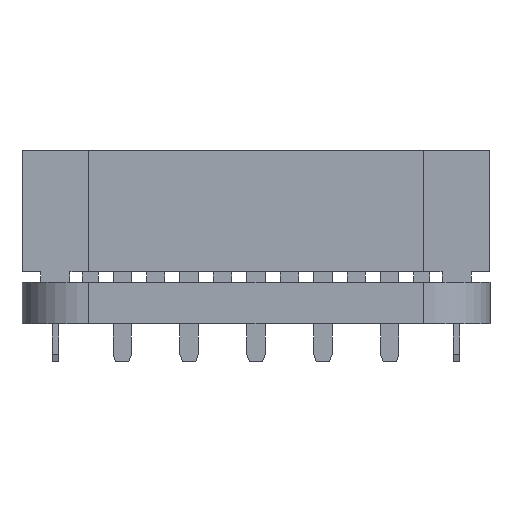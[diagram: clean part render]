
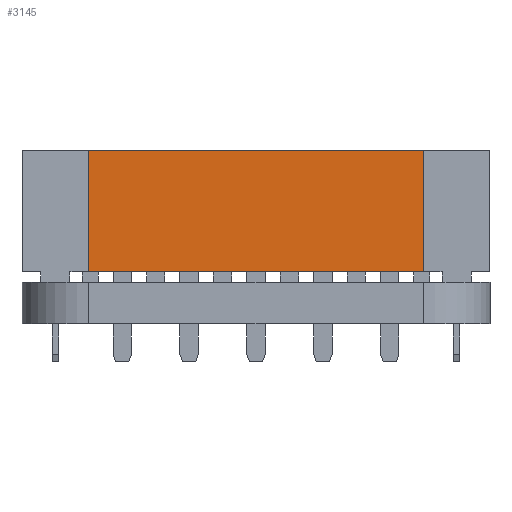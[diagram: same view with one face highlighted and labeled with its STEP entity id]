
A CAD part, front view. The second image highlights one B-rep face of the part: STEP entity #3145.
In plain terms, the highlighted planar face has unit normal (0, -1, 0) as drawn and (0, 0, -1) by its records, which use the part's own axes.
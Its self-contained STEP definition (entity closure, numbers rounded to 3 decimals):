
#51 = CARTESIAN_POINT ( 'NONE',  ( 6.6, 23.442, -1.27 ) ) ;
#330 = ORIENTED_EDGE ( 'NONE', *, *, #6319, .F. ) ;
#486 = VECTOR ( 'NONE', #6000, 1000. ) ;
#1092 = VERTEX_POINT ( 'NONE', #2343 ) ;
#1157 = AXIS2_PLACEMENT_3D ( 'NONE', #51, #3375, #9232 ) ;
#1484 = ORIENTED_EDGE ( 'NONE', *, *, #4464, .T. ) ;
#1612 = CARTESIAN_POINT ( 'NONE',  ( 6.6, 5., -1.27 ) ) ;
#1630 = PLANE ( 'NONE',  #1157 ) ;
#1804 = CARTESIAN_POINT ( 'NONE',  ( -6.6, 23.442, -1.27 ) ) ;
#1968 = VERTEX_POINT ( 'NONE', #10307 ) ;
#2122 = VECTOR ( 'NONE', #5242, 1000. ) ;
#2343 = CARTESIAN_POINT ( 'NONE',  ( -6.6, 5., -1.27 ) ) ;
#2490 = EDGE_CURVE ( 'NONE', #1092, #5947, #5295, .T. ) ;
#2673 = CARTESIAN_POINT ( 'NONE',  ( -6.6, 0.4, -1.27 ) ) ;
#3047 = CARTESIAN_POINT ( 'NONE',  ( 6.6, 0.4, -1.27 ) ) ;
#3145 = ADVANCED_FACE ( 'NONE', ( #8460 ), #1630, .F. ) ;
#3242 = ORIENTED_EDGE ( 'NONE', *, *, #2490, .F. ) ;
#3323 = CARTESIAN_POINT ( 'NONE',  ( 6.6, 5., -1.27 ) ) ;
#3375 = DIRECTION ( 'NONE',  ( 0., 0., 1. ) ) ;
#4464 = EDGE_CURVE ( 'NONE', #1968, #5947, #6261, .T. ) ;
#4976 = DIRECTION ( 'NONE',  ( -1., 0., 0. ) ) ;
#5242 = DIRECTION ( 'NONE',  ( 0., -1., 0. ) ) ;
#5295 = LINE ( 'NONE', #1804, #2122 ) ;
#5602 = EDGE_LOOP ( 'NONE', ( #330, #8514, #1484, #3242 ) ) ;
#5947 = VERTEX_POINT ( 'NONE', #2673 ) ;
#6000 = DIRECTION ( 'NONE',  ( 0., -1., 0. ) ) ;
#6261 = LINE ( 'NONE', #3047, #6583 ) ;
#6319 = EDGE_CURVE ( 'NONE', #8322, #1092, #9098, .T. ) ;
#6583 = VECTOR ( 'NONE', #7989, 1000. ) ;
#6760 = LINE ( 'NONE', #10304, #486 ) ;
#7989 = DIRECTION ( 'NONE',  ( -1., 0., 0. ) ) ;
#8322 = VERTEX_POINT ( 'NONE', #3323 ) ;
#8460 = FACE_OUTER_BOUND ( 'NONE', #5602, .T. ) ;
#8514 = ORIENTED_EDGE ( 'NONE', *, *, #9375, .T. ) ;
#9098 = LINE ( 'NONE', #1612, #9562 ) ;
#9232 = DIRECTION ( 'NONE',  ( 1., 0., 0. ) ) ;
#9375 = EDGE_CURVE ( 'NONE', #8322, #1968, #6760, .T. ) ;
#9562 = VECTOR ( 'NONE', #4976, 1000. ) ;
#10304 = CARTESIAN_POINT ( 'NONE',  ( 6.6, 23.442, -1.27 ) ) ;
#10307 = CARTESIAN_POINT ( 'NONE',  ( 6.6, 0.4, -1.27 ) ) ;
